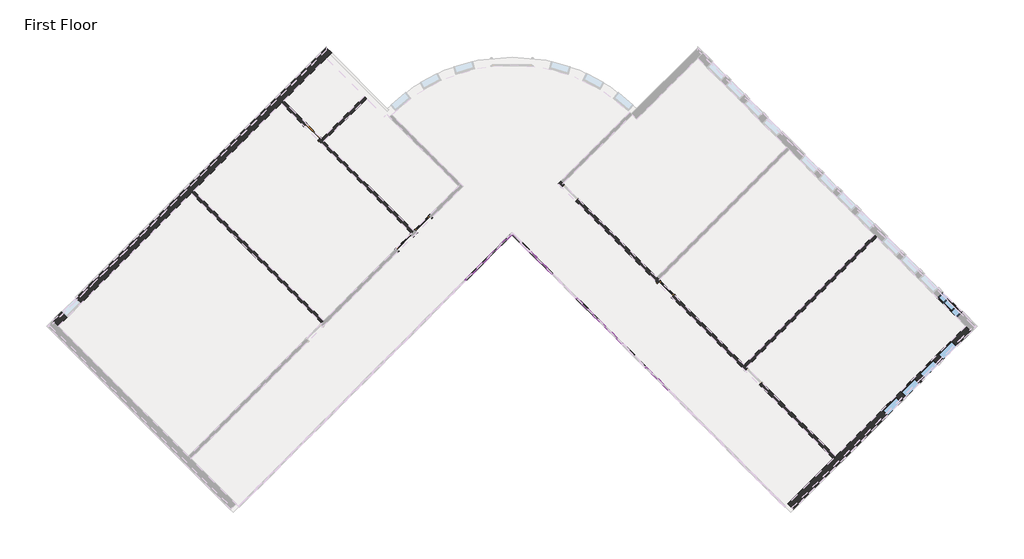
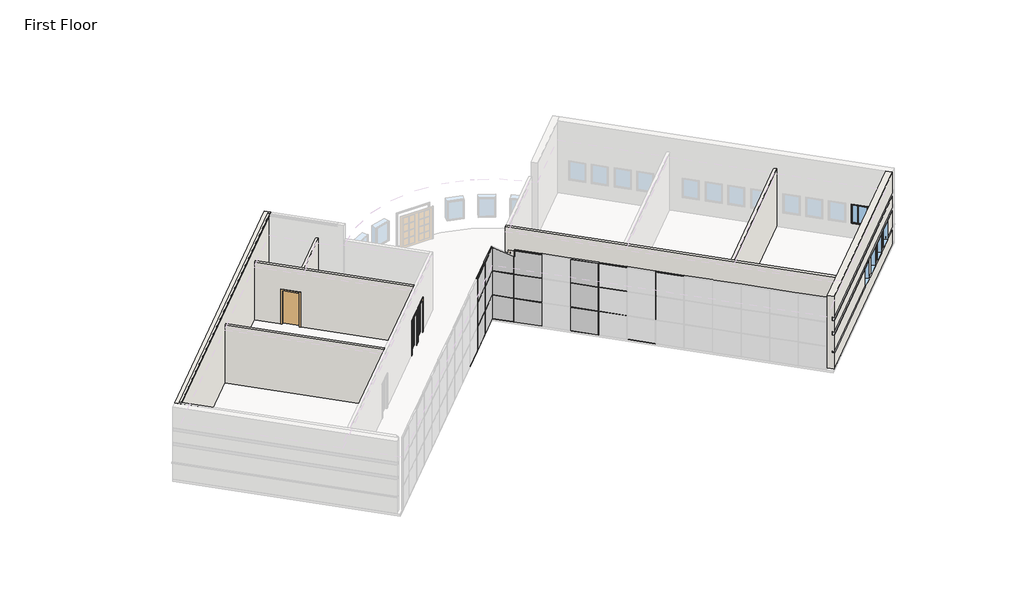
# One storey, part 3 of 5: 32 members, 15 plates, 7 walls, 6 windows, 4 doors.
"""IFC4 building model written with IfcOpenShell, lengths in millimetres."""

from ifc_helpers import new_model, si_unit, origin, origin_with_axes, place, context, project, spatial, polyline, outline, extrude, faceted_brep, transform, mapped, element, save
from components import door_f9494b7c, door_b81abb0e, door_5f5b55da, member_155beb68, member_f5090587, member_42be4715, member_6121af53, member_bd80eb51, member_b8a5b5c0, member_9574b3de, member_6675e4ca, member_0f81cabc, system_panel_solid_99f695d0, system_panel_solid_2f1037e2, system_panel_solid_51be2c86, system_panel_solid_5fd6f37f, system_panel_solid_6e0f4c8d, system_panel_solid_e1a07a15, system_panel_solid_f673cd79, system_panel_solid_3576f13f, window_15c49d37, window_0e2fc6ce

model = new_model("IFC4")

# Units and contexts
model_context = context("Model", 3, world=origin())
ifc_project = project(units=[si_unit("LENGTHUNIT", "METRE", prefix="MILLI")], contexts=[model_context])

# Site, building, storey
site = spatial("IfcSite", under=ifc_project)
building = spatial("IfcBuilding", under=site)
storey = spatial("IfcBuildingStorey", under=building, Name="First Floor", Elevation=0.0)

# Doors
placement = place(None, origin())
door_shape = door_f9494b7c(model_context)
element("IfcDoor", 1, ObjectType="Single-Flush : 36\" x 84\"", at=placement, inside=storey, context=model_context, shape_type="MappedRepresentation", body=[
    mapped(door_shape, transform((-12710.6349126, 7029.9464017, 0.0), x_axis=(0.7071067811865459, -0.7071067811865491, 0.0), y_axis=(0.7071067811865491, 0.7071067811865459, 0.0), z_axis=(0.0, 0.0, 1.0))),
])
door_2_shape = door_b81abb0e(model_context)
element("IfcDoor", 2, ObjectType="Single-Glass 1 : 36\" x 84\"", at=placement, inside=storey, context=model_context, shape_type="MappedRepresentation", body=[
    mapped(door_2_shape, transform((-8433.7879349, 1890.9948364, 0.0), x_axis=(0.707106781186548, 0.707106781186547, 0.0), y_axis=(-0.707106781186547, 0.707106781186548, 0.0), z_axis=(0.0, 0.0, 1.0))),
])
door_3_shape = door_5f5b55da(model_context)
element("IfcDoor", 3, ObjectType="Single-Glass 1 : 36\" x 84\"", at=placement, inside=storey, context=model_context, shape_type="MappedRepresentation", body=[
    mapped(door_3_shape, transform((-7571.6833473, 2753.0994241, 0.0), x_axis=(-0.707106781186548, -0.707106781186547, 0.0), y_axis=(0.707106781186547, -0.707106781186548, 0.0), z_axis=(0.0, 0.0, 1.0))),
])
element("IfcDoor", 4, ObjectType="Single-Glass 1 : 36\" x 84\"", at=placement, inside=storey, context=model_context, shape_type="MappedRepresentation", body=[
    mapped(door_3_shape, transform((3703.0282127, -264.2666326, 0.0), x_axis=(-0.7071067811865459, 0.7071067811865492, 0.0), y_axis=(-0.7071067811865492, -0.7071067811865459, 0.0), z_axis=(0.0, 0.0, 1.0))),
])

# Members
member_shape = member_155beb68(model_context)
element("IfcMember", 5, ObjectType="Rectangular Mullion : 1.5\" x 2.5\" Rectangular", at=placement, inside=storey, context=model_context, shape_type="MappedRepresentation", body=[
    mapped(member_shape, transform((-4520.6413301, 1244.4163957, 0.0), x_axis=(-0.7071067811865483, -0.7071067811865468, 0.0), y_axis=(-0.7071067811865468, 0.7071067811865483, 0.0), z_axis=(0.0, 0.0, -1.0))),
])
element("IfcMember", 6, ObjectType="Rectangular Mullion : 1.5\" x 2.5\" Rectangular", at=placement, inside=storey, context=model_context, shape_type="MappedRepresentation", body=[
    mapped(member_shape, transform((-5598.2720647, 166.7856612, 0.0), x_axis=(-0.7071067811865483, -0.7071067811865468, 0.0), y_axis=(-0.7071067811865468, 0.7071067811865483, 0.0), z_axis=(0.0, 0.0, -1.0))),
])
element("IfcMember", 7, ObjectType="Rectangular Mullion : 1.5\" x 2.5\" Rectangular", at=placement, inside=storey, context=model_context, shape_type="MappedRepresentation", body=[
    mapped(member_shape, transform((618.3102351, -1739.2737005, 0.0), x_axis=(-0.7071067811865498, 0.7071067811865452, 0.0), y_axis=(0.7071067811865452, 0.7071067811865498, 0.0), z_axis=(0.0, 0.0, -1.0))),
])
element("IfcMember", 8, ObjectType="Rectangular Mullion : 1.5\" x 2.5\" Rectangular", at=placement, inside=storey, context=model_context, shape_type="MappedRepresentation", body=[
    mapped(member_shape, transform((-2614.5819684, 1493.6185031, 0.0), x_axis=(-0.7071067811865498, 0.7071067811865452, 0.0), y_axis=(0.7071067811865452, 0.7071067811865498, 0.0), z_axis=(0.0, 0.0, -1.0))),
])
member_2_shape = member_f5090587(model_context)
element("IfcMember", 9, ObjectType="Rectangular Mullion : 1.5\" x 2.5\" Rectangular", at=placement, inside=storey, context=model_context, shape_type="MappedRepresentation", body=[
    mapped(member_2_shape, transform((-4507.170946, 1257.8867799, 1524.0), x_axis=(0.0, 0.0, 1.0), y_axis=(-0.7071067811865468, 0.7071067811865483, 0.0), z_axis=(-0.7071067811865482, -0.7071067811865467, 0.0))),
])
element("IfcMember", 10, ObjectType="Rectangular Mullion : 1.5\" x 2.5\" Rectangular", at=placement, inside=storey, context=model_context, shape_type="MappedRepresentation", body=[
    mapped(member_2_shape, transform((-4507.170946, 1257.8867799, 3048.0), x_axis=(0.0, 0.0, 1.0), y_axis=(-0.7071067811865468, 0.7071067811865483, 0.0), z_axis=(-0.7071067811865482, -0.7071067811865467, 0.0))),
])
member_3_shape = member_42be4715(model_context)
element("IfcMember", 11, ObjectType="Rectangular Mullion : 1.5\" x 2.5\" Rectangular", at=placement, inside=storey, context=model_context, shape_type="MappedRepresentation", body=[
    mapped(member_3_shape, transform((-5584.8016805, 180.2560454, 1524.0), x_axis=(0.0, 0.0, 1.0), y_axis=(-0.7071067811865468, 0.7071067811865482, 0.0), z_axis=(-0.7071067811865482, -0.7071067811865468, 0.0))),
])
element("IfcMember", 12, ObjectType="Rectangular Mullion : 1.5\" x 2.5\" Rectangular", at=placement, inside=storey, context=model_context, shape_type="MappedRepresentation", body=[
    mapped(member_3_shape, transform((-5584.8016805, 180.2560454, 3048.0), x_axis=(0.0, 0.0, 1.0), y_axis=(-0.7071067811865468, 0.7071067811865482, 0.0), z_axis=(-0.7071067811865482, -0.7071067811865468, 0.0))),
])
element("IfcMember", 13, ObjectType="Rectangular Mullion : 1.5\" x 2.5\" Rectangular", at=placement, inside=storey, context=model_context, shape_type="MappedRepresentation", body=[
    mapped(member_3_shape, transform((631.7806193, -1752.7440847, 1524.0), x_axis=(0.0, 0.0, 1.0), y_axis=(0.707106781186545, 0.70710678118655, 0.0), z_axis=(-0.7071067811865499, 0.7071067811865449, 0.0))),
])
element("IfcMember", 14, ObjectType="Rectangular Mullion : 1.5\" x 2.5\" Rectangular", at=placement, inside=storey, context=model_context, shape_type="MappedRepresentation", body=[
    mapped(member_3_shape, transform((-2601.1115843, 1480.1481189, 1524.0), x_axis=(0.0, 0.0, 1.0), y_axis=(0.7071067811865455, 0.7071067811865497, 0.0), z_axis=(-0.7071067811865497, 0.7071067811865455, 0.0))),
])
element("IfcMember", 15, ObjectType="Rectangular Mullion : 1.5\" x 2.5\" Rectangular", at=placement, inside=storey, context=model_context, shape_type="MappedRepresentation", body=[
    mapped(member_3_shape, transform((631.7806193, -1752.7440847, 3048.0), x_axis=(0.0, 0.0, 1.0), y_axis=(0.707106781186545, 0.70710678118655, 0.0), z_axis=(-0.7071067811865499, 0.7071067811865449, 0.0))),
])
element("IfcMember", 16, ObjectType="Rectangular Mullion : 1.5\" x 2.5\" Rectangular", at=placement, inside=storey, context=model_context, shape_type="MappedRepresentation", body=[
    mapped(member_3_shape, transform((-2601.1115843, 1480.1481189, 3048.0), x_axis=(0.0, 0.0, 1.0), y_axis=(0.7071067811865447, 0.7071067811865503, 0.0), z_axis=(-0.7071067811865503, 0.7071067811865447, 0.0))),
])
member_4_shape = member_6121af53(model_context)
element("IfcMember", 17, ObjectType="Rectangular Mullion : 1.5\" x 2.5\" Rectangular", at=placement, inside=storey, context=model_context, shape_type="MappedRepresentation", body=[
    mapped(member_4_shape, transform((-4534.1117143, 1230.9460115, 0.0), x_axis=(0.0, 0.0, -1.0), y_axis=(-0.7071067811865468, 0.7071067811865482, 0.0), z_axis=(0.7071067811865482, 0.7071067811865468, 0.0))),
])
element("IfcMember", 18, ObjectType="Rectangular Mullion : 1.5\" x 2.5\" Rectangular", at=placement, inside=storey, context=model_context, shape_type="MappedRepresentation", body=[
    mapped(member_4_shape, transform((-5611.7424488, 153.315277, 0.0), x_axis=(0.0, 0.0, -1.0), y_axis=(-0.7071067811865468, 0.7071067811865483, 0.0), z_axis=(0.7071067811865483, 0.7071067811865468, 0.0))),
])
element("IfcMember", 19, ObjectType="Rectangular Mullion : 1.5\" x 2.5\" Rectangular", at=placement, inside=storey, context=model_context, shape_type="MappedRepresentation", body=[
    mapped(member_4_shape, transform((2760.10132, -3881.0647854, 0.0), x_axis=(0.0, 0.0, -1.0), y_axis=(0.7071067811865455, 0.7071067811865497, 0.0), z_axis=(0.7071067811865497, -0.7071067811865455, 0.0))),
])
element("IfcMember", 20, ObjectType="Rectangular Mullion : 1.5\" x 2.5\" Rectangular", at=placement, inside=storey, context=model_context, shape_type="MappedRepresentation", body=[
    mapped(member_4_shape, transform((604.839851, -1725.8033163, 0.0), x_axis=(0.0, 0.0, -1.0), y_axis=(0.707106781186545, 0.70710678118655, 0.0), z_axis=(0.70710678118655, -0.707106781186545, 0.0))),
])
member_5_shape = member_bd80eb51(model_context)
element("IfcMember", 21, ObjectType="Rectangular Mullion : 1.5\" x 2.5\" Rectangular", at=placement, inside=storey, context=model_context, shape_type="MappedRepresentation", body=[
    mapped(member_5_shape, transform((-2628.0523526, 1507.0888873, 0.0), x_axis=(0.0, 0.0, -1.0), y_axis=(0.7071067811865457, 0.7071067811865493, 0.0), z_axis=(0.7071067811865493, -0.7071067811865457, 0.0))),
])
member_6_shape = member_b8a5b5c0(model_context)
element("IfcMember", 22, ObjectType="Rectangular Mullion : 1.5\" x 2.5\" Rectangular", at=placement, inside=storey, context=model_context, shape_type="MappedRepresentation", body=[
    mapped(member_6_shape, transform((-4507.170946, 1257.8867799, 4572.0), x_axis=(0.0, 0.0, 1.0), y_axis=(-0.7071067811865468, 0.7071067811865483, 0.0), z_axis=(-0.7071067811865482, -0.7071067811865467, 0.0))),
])
element("IfcMember", 23, ObjectType="Rectangular Mullion : 1.5\" x 2.5\" Rectangular", at=placement, inside=storey, context=model_context, shape_type="MappedRepresentation", body=[
    mapped(member_4_shape, transform((-5584.8016805, 180.2560454, 4572.0), x_axis=(0.0, 0.0, 1.0), y_axis=(-0.7071067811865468, 0.7071067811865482, 0.0), z_axis=(-0.7071067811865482, -0.7071067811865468, 0.0))),
])
element("IfcMember", 24, ObjectType="Rectangular Mullion : 1.5\" x 2.5\" Rectangular", at=placement, inside=storey, context=model_context, shape_type="MappedRepresentation", body=[
    mapped(member_4_shape, transform((2787.0420884, -3908.0055537, 4572.0), x_axis=(0.0, 0.0, 1.0), y_axis=(0.707106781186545, 0.70710678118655, 0.0), z_axis=(-0.7071067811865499, 0.7071067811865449, 0.0))),
])
element("IfcMember", 25, ObjectType="Rectangular Mullion : 1.5\" x 2.5\" Rectangular", at=placement, inside=storey, context=model_context, shape_type="MappedRepresentation", body=[
    mapped(member_4_shape, transform((631.7806193, -1752.7440847, 4572.0), x_axis=(0.0, 0.0, 1.0), y_axis=(0.707106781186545, 0.70710678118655, 0.0), z_axis=(-0.7071067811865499, 0.7071067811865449, 0.0))),
])
element("IfcMember", 26, ObjectType="Rectangular Mullion : 1.5\" x 2.5\" Rectangular", at=placement, inside=storey, context=model_context, shape_type="MappedRepresentation", body=[
    mapped(member_shape, transform((-4520.6413301, 1244.4163957, 1524.0), x_axis=(-0.7071067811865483, -0.7071067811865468, 0.0), y_axis=(-0.7071067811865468, 0.7071067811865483, 0.0), z_axis=(0.0, 0.0, -1.0))),
])
element("IfcMember", 27, ObjectType="Rectangular Mullion : 1.5\" x 2.5\" Rectangular", at=placement, inside=storey, context=model_context, shape_type="MappedRepresentation", body=[
    mapped(member_shape, transform((-5598.2720647, 166.7856612, 1524.0), x_axis=(-0.7071067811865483, -0.7071067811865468, 0.0), y_axis=(-0.7071067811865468, 0.7071067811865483, 0.0), z_axis=(0.0, 0.0, -1.0))),
])
element("IfcMember", 28, ObjectType="Rectangular Mullion : 1.5\" x 2.5\" Rectangular", at=placement, inside=storey, context=model_context, shape_type="MappedRepresentation", body=[
    mapped(member_shape, transform((2773.5717042, -3894.5351696, 1524.0), x_axis=(-0.7071067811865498, 0.7071067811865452, 0.0), y_axis=(0.7071067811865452, 0.7071067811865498, 0.0), z_axis=(0.0, 0.0, -1.0))),
])
element("IfcMember", 29, ObjectType="Rectangular Mullion : 1.5\" x 2.5\" Rectangular", at=placement, inside=storey, context=model_context, shape_type="MappedRepresentation", body=[
    mapped(member_shape, transform((618.3102351, -1739.2737005, 1524.0), x_axis=(-0.7071067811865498, 0.7071067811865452, 0.0), y_axis=(0.7071067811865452, 0.7071067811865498, 0.0), z_axis=(0.0, 0.0, -1.0))),
])
element("IfcMember", 30, ObjectType="Rectangular Mullion : 1.5\" x 2.5\" Rectangular", at=placement, inside=storey, context=model_context, shape_type="MappedRepresentation", body=[
    mapped(member_shape, transform((-4520.6413301, 1244.4163957, 3048.0), x_axis=(-0.7071067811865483, -0.7071067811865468, 0.0), y_axis=(-0.7071067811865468, 0.7071067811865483, 0.0), z_axis=(0.0, 0.0, -1.0))),
])
element("IfcMember", 31, ObjectType="Rectangular Mullion : 1.5\" x 2.5\" Rectangular", at=placement, inside=storey, context=model_context, shape_type="MappedRepresentation", body=[
    mapped(member_shape, transform((-5598.2720647, 166.7856612, 3048.0), x_axis=(-0.7071067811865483, -0.7071067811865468, 0.0), y_axis=(-0.7071067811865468, 0.7071067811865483, 0.0), z_axis=(0.0, 0.0, -1.0))),
])
element("IfcMember", 32, ObjectType="Rectangular Mullion : 1.5\" x 2.5\" Rectangular", at=placement, inside=storey, context=model_context, shape_type="MappedRepresentation", body=[
    mapped(member_shape, transform((2773.5717042, -3894.5351696, 3048.0), x_axis=(-0.7071067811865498, 0.7071067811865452, 0.0), y_axis=(0.7071067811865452, 0.7071067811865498, 0.0), z_axis=(0.0, 0.0, -1.0))),
])
element("IfcMember", 33, ObjectType="Rectangular Mullion : 1.5\" x 2.5\" Rectangular", at=placement, inside=storey, context=model_context, shape_type="MappedRepresentation", body=[
    mapped(member_shape, transform((618.3102351, -1739.2737005, 3048.0), x_axis=(-0.7071067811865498, 0.7071067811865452, 0.0), y_axis=(0.7071067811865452, 0.7071067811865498, 0.0), z_axis=(0.0, 0.0, -1.0))),
])
member_7_shape = member_9574b3de(model_context)
element("IfcMember", 34, ObjectType="Rectangular Mullion : 1.5\" x 2.5\" Rectangular", at=placement, inside=storey, context=model_context, shape_type="MappedRepresentation", body=[
    mapped(member_7_shape, transform((-2553.9652396, 1433.0017743, 4572.0), x_axis=(0.0, 0.0, 1.0), y_axis=(0.7071067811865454, 0.7071067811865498, 0.0), z_axis=(-0.7071067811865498, 0.7071067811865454, 0.0))),
])
member_8_shape = member_6675e4ca(model_context)
element("IfcMember", 35, ObjectType="Rectangular Mullion : 1.5\" x 2.5\" Rectangular", at=placement, inside=storey, context=model_context, shape_type="MappedRepresentation", body=[
    mapped(member_8_shape, transform((-2580.906008, 1459.9425426, 4165.6), x_axis=(-0.7071067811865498, 0.7071067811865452, 0.0), y_axis=(0.7071067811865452, 0.7071067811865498, 0.0), z_axis=(0.0, 0.0, -1.0))),
])
member_9_shape = member_0f81cabc(model_context)
element("IfcMember", 36, ObjectType="Rectangular Mullion : 1.5\" x 2.5\" Rectangular", at=placement, inside=storey, context=model_context, shape_type="MappedRepresentation", body=[
    mapped(member_9_shape, transform((-2614.5819684, 1493.6185031, 4181.475), x_axis=(0.22360679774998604, -0.22360679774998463, 0.9486832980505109), y_axis=(0.7071067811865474, 0.7071067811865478, 0.0), z_axis=(-0.6708203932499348, 0.6708203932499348, 0.31622776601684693))),
])

# Plates
system_panel_solid_shape = system_panel_solid_99f695d0(model_context)
element("IfcPlate", 37, ObjectType="System Panel : Solid", at=placement, inside=storey, context=model_context, shape_type="MappedRepresentation", body=[
    mapped(system_panel_solid_shape, transform((-3988.561155, 1776.4965709, 38.1), x_axis=(-0.7071067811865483, -0.7071067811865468, 0.0), y_axis=(0.7071067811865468, -0.7071067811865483, 0.0), z_axis=(0.0, 0.0, 1.0))),
])
element("IfcPlate", 38, ObjectType="System Panel : Solid", at=placement, inside=storey, context=model_context, shape_type="MappedRepresentation", body=[
    mapped(system_panel_solid_shape, transform((-3988.561155, 1776.4965709, 3067.05), x_axis=(-0.7071067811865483, -0.7071067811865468, 0.0), y_axis=(0.7071067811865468, -0.7071067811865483, 0.0), z_axis=(0.0, 0.0, 1.0))),
])
system_panel_solid_2_shape = system_panel_solid_2f1037e2(model_context)
element("IfcPlate", 39, ObjectType="System Panel : Solid", at=placement, inside=storey, context=model_context, shape_type="MappedRepresentation", body=[
    mapped(system_panel_solid_2_shape, transform((79.4948679, -1200.4583332, 38.1), x_axis=(-0.7071067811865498, 0.7071067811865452, 0.0), y_axis=(-0.7071067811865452, -0.7071067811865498, 0.0), z_axis=(0.0, 0.0, 1.0))),
])
element("IfcPlate", 40, ObjectType="System Panel : Solid", at=placement, inside=storey, context=model_context, shape_type="MappedRepresentation", body=[
    mapped(system_panel_solid_2_shape, transform((-5059.4566974, 705.6010285, 38.1), x_axis=(-0.7071067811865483, -0.7071067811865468, 0.0), y_axis=(0.7071067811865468, -0.7071067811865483, 0.0), z_axis=(0.0, 0.0, 1.0))),
])
element("IfcPlate", 41, ObjectType="System Panel : Solid", at=placement, inside=storey, context=model_context, shape_type="MappedRepresentation", body=[
    mapped(system_panel_solid_2_shape, transform((-2075.7666012, 954.8031358, 38.1), x_axis=(-0.7071067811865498, 0.7071067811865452, 0.0), y_axis=(-0.7071067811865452, -0.7071067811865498, 0.0), z_axis=(0.0, 0.0, 1.0))),
])
element("IfcPlate", 42, ObjectType="System Panel : Solid", at=placement, inside=storey, context=model_context, shape_type="MappedRepresentation", body=[
    mapped(system_panel_solid_2_shape, transform((79.4948679, -1200.4583332, 3067.05), x_axis=(-0.7071067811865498, 0.7071067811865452, 0.0), y_axis=(-0.7071067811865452, -0.7071067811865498, 0.0), z_axis=(0.0, 0.0, 1.0))),
])
element("IfcPlate", 43, ObjectType="System Panel : Solid", at=placement, inside=storey, context=model_context, shape_type="MappedRepresentation", body=[
    mapped(system_panel_solid_2_shape, transform((-5059.4566974, 705.6010285, 3067.05), x_axis=(-0.7071067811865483, -0.7071067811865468, 0.0), y_axis=(0.7071067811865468, -0.7071067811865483, 0.0), z_axis=(0.0, 0.0, 1.0))),
])
system_panel_solid_3_shape = system_panel_solid_51be2c86(model_context)
element("IfcPlate", 44, ObjectType="System Panel : Solid", at=placement, inside=storey, context=model_context, shape_type="MappedRepresentation", body=[
    mapped(system_panel_solid_3_shape, transform((-3988.561155, 1776.4965709, 1543.05), x_axis=(-0.7071067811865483, -0.7071067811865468, 0.0), y_axis=(0.7071067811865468, -0.7071067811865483, 0.0), z_axis=(0.0, 0.0, 1.0))),
])
system_panel_solid_4_shape = system_panel_solid_5fd6f37f(model_context)
element("IfcPlate", 45, ObjectType="System Panel : Solid", at=placement, inside=storey, context=model_context, shape_type="MappedRepresentation", body=[
    mapped(system_panel_solid_4_shape, transform((79.4948679, -1200.4583332, 1543.05), x_axis=(-0.7071067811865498, 0.7071067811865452, 0.0), y_axis=(-0.7071067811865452, -0.7071067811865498, 0.0), z_axis=(0.0, 0.0, 1.0))),
])
element("IfcPlate", 46, ObjectType="System Panel : Solid", at=placement, inside=storey, context=model_context, shape_type="MappedRepresentation", body=[
    mapped(system_panel_solid_4_shape, transform((-5059.4566974, 705.6010285, 1543.05), x_axis=(-0.7071067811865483, -0.7071067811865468, 0.0), y_axis=(0.7071067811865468, -0.7071067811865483, 0.0), z_axis=(0.0, 0.0, 1.0))),
])
element("IfcPlate", 47, ObjectType="System Panel : Solid", at=placement, inside=storey, context=model_context, shape_type="MappedRepresentation", body=[
    mapped(system_panel_solid_4_shape, transform((-2075.7666012, 954.8031358, 1543.05), x_axis=(-0.7071067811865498, 0.7071067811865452, 0.0), y_axis=(-0.7071067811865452, -0.7071067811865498, 0.0), z_axis=(0.0, 0.0, 1.0))),
])
system_panel_solid_5_shape = system_panel_solid_6e0f4c8d(model_context)
element("IfcPlate", 48, ObjectType="System Panel : Solid", at=placement, inside=storey, context=model_context, shape_type="MappedRepresentation", body=[
    mapped(system_panel_solid_5_shape, transform((-3022.0610899, 1901.0976246, 38.1), x_axis=(-0.7071067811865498, 0.7071067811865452, 0.0), y_axis=(-0.7071067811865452, -0.7071067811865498, 0.0), z_axis=(0.0, 0.0, 1.0))),
])
system_panel_solid_6_shape = system_panel_solid_e1a07a15(model_context)
element("IfcPlate", 49, ObjectType="System Panel : Solid", at=placement, inside=storey, context=model_context, shape_type="MappedRepresentation", body=[
    mapped(system_panel_solid_6_shape, transform((-3022.0610899, 1901.0976246, 1543.05), x_axis=(-0.7071067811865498, 0.7071067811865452, 0.0), y_axis=(-0.7071067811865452, -0.7071067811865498, 0.0), z_axis=(0.0, 0.0, 1.0))),
])
system_panel_solid_7_shape = system_panel_solid_f673cd79(model_context)
element("IfcPlate", 50, ObjectType="System Panel : Solid", at=placement, inside=storey, context=model_context, shape_type="MappedRepresentation", body=[
    mapped(system_panel_solid_7_shape, transform((-2075.7666012, 954.8031358, 3067.05), x_axis=(-0.7071067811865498, 0.7071067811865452, 0.0), y_axis=(-0.7071067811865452, -0.7071067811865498, 0.0), z_axis=(0.0, 0.0, 1.0))),
])
system_panel_solid_8_shape = system_panel_solid_3576f13f(model_context)
element("IfcPlate", 51, ObjectType="System Panel : Solid", at=placement, inside=storey, context=model_context, shape_type="MappedRepresentation", body=[
    mapped(system_panel_solid_8_shape, transform((-3022.0610899, 1901.0976246, 3067.05), x_axis=(-0.7071067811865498, 0.7071067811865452, 0.0), y_axis=(-0.7071067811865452, -0.7071067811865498, 0.0), z_axis=(0.0, 0.0, 1.0))),
])

# Walls
element("IfcWall", 52, ObjectType="Exterior - Split Face and CMU on Mtl. Stud", at=placement, inside=storey, context=model_context, shape_type="Brep", body=[
    faceted_brep([(17611.1998802, -1988.4758079, 0.0), (11574.2227029, -8025.4529853, 0.0), (11464.2145654, -8135.4611227, 0.0), (9363.9571651, -10235.718523, 0.0), (9363.9571651, -10235.718523, 4572.0), (17611.1998802, -1988.4758079, 4572.0), (16301.2050186, -3298.4706695, 2133.6), (16301.2050186, -3298.4706695, 914.4), (16947.7834593, -2651.8922288, 914.4), (16947.7834593, -2651.8922288, 2133.6), (15439.100431, -4160.5752571, 2133.6), (15439.100431, -4160.5752571, 914.4), (16085.6788717, -3513.9968164, 914.4), (16085.6788717, -3513.9968164, 2133.6), (14576.9958433, -5022.6798448, 2133.6), (14576.9958433, -5022.6798448, 914.4), (15223.574284, -4376.1014041, 914.4), (15223.574284, -4376.1014041, 2133.6), (13714.8912557, -5884.7844324, 2133.6), (13714.8912557, -5884.7844324, 914.4), (14361.4696964, -5238.2059917, 914.4), (14361.4696964, -5238.2059917, 2133.6), (17860.4019876, -2237.6779152, 4572.0), (9613.1592724, -10484.9206304, 4572.0), (9613.1592724, -10484.9206304, 3251.2), (17860.4019876, -2237.6779152, 3251.2), (9613.1592724, -10484.9206304, 0.0), (17860.4019876, -2237.6779152, 0.0), (17860.4019876, -2237.6779152, 1016.0), (17196.9855667, -2901.0943362, 1016.0), (17196.9855667, -2901.0943362, 914.4), (16550.4071259, -3547.6727769, 914.4), (16550.4071259, -3547.6727769, 1016.0), (16334.880979, -3763.1989238, 1016.0), (16334.880979, -3763.1989238, 914.4), (15688.3025383, -4409.7773645, 914.4), (15688.3025383, -4409.7773645, 1016.0), (15472.7763914, -4625.3035114, 1016.0), (15472.7763914, -4625.3035114, 914.4), (14826.1979507, -5271.8819521, 914.4), (14826.1979507, -5271.8819521, 1016.0), (14610.6718038, -5487.408099, 1016.0), (14610.6718038, -5487.408099, 914.4), (13964.0933631, -6133.9865398, 914.4), (13964.0933631, -6133.9865398, 1016.0), (9613.1592724, -10484.9206304, 1016.0), (9613.1592724, -10484.9206304, 1085.85), (13964.0933631, -6133.9865398, 1085.85), (13964.0933631, -6133.9865398, 2133.6), (9613.1592724, -10484.9206304, 2133.6), (17196.9855667, -2901.0943362, 1085.85), (17860.4019876, -2237.6779152, 1085.85), (17860.4019876, -2237.6779152, 2133.6), (17196.9855667, -2901.0943362, 2133.6), (9613.1592724, -10484.9206304, 2336.8), (17860.4019876, -2237.6779152, 2336.8), (17860.4019876, -2237.6779152, 3048.0), (9613.1592724, -10484.9206304, 3048.0), (16550.4071259, -3547.6727769, 1085.85), (16550.4071259, -3547.6727769, 2133.6), (16334.880979, -3763.1989238, 2133.6), (16334.880979, -3763.1989238, 1085.85), (15688.3025383, -4409.7773645, 1085.85), (15688.3025383, -4409.7773645, 2133.6), (15472.7763914, -4625.3035114, 2133.6), (15472.7763914, -4625.3035114, 1085.85), (14826.1979507, -5271.8819521, 1085.85), (14826.1979507, -5271.8819521, 2133.6), (14610.6718038, -5487.408099, 2133.6), (14610.6718038, -5487.408099, 1085.85), (9548.0524155, -10419.8137735, 0.0), (9548.0524155, -10419.8137735, 1016.0), (9548.0524155, -10419.8137735, 1085.85), (9548.0524155, -10419.8137735, 2133.6), (9548.0524155, -10419.8137735, 2336.8), (9548.0524155, -10419.8137735, 3048.0), (9548.0524155, -10419.8137735, 3251.2), (17795.2951307, -2172.5710583, 0.0), (13898.9865062, -6068.8796829, 1085.85), (13898.9865062, -6068.8796829, 1016.0), (13898.9865062, -6068.8796829, 2133.6), (14545.5649469, -5422.3012422, 2133.6), (14761.0910938, -5206.7750953, 2133.6), (15407.6695345, -4560.1966545, 2133.6), (15623.1956814, -4344.6705076, 2133.6), (16269.7741222, -3698.0920669, 2133.6), (16485.3002691, -3482.56592, 2133.6), (17131.8787098, -2835.9874793, 2133.6), (17795.2951307, -2172.5710583, 2133.6), (17795.2951307, -2172.5710583, 2336.8), (17795.2951307, -2172.5710583, 3048.0), (17795.2951307, -2172.5710583, 3251.2), (17795.2951307, -2172.5710583, 1085.85), (17795.2951307, -2172.5710583, 1016.0), (17131.8787098, -2835.9874793, 1085.85), (17131.8787098, -2835.9874793, 1016.0), (16485.3002691, -3482.56592, 1085.85), (16485.3002691, -3482.56592, 1016.0), (15623.1956814, -4344.6705076, 1085.85), (15623.1956814, -4344.6705076, 1016.0), (16269.7741222, -3698.0920669, 1016.0), (16269.7741222, -3698.0920669, 1085.85), (14761.0910938, -5206.7750953, 1085.85), (14761.0910938, -5206.7750953, 1016.0), (15407.6695345, -4560.1966545, 1016.0), (15407.6695345, -4560.1966545, 1085.85), (14545.5649469, -5422.3012422, 1016.0), (14545.5649469, -5422.3012422, 1085.85)], [[[0, 1, 2, 3, 4, 5], [6, 7, 8, 9], [10, 11, 12, 13], [14, 15, 16, 17], [18, 19, 20, 21]], [[22, 23, 24, 25]], [[26, 27, 28, 29, 30, 31, 32, 33, 34, 35, 36, 37, 38, 39, 40, 41, 42, 43, 44, 45]], [[46, 47, 48, 49]], [[50, 51, 52, 53]], [[54, 55, 56, 57]], [[58, 59, 60, 61]], [[62, 63, 64, 65]], [[66, 67, 68, 69]], [[4, 3, 70, 26, 45, 71, 72, 46, 49, 73, 74, 54, 57, 75, 76, 24, 23]], [[5, 4, 23, 22]], [[3, 2, 1, 0, 77, 70]], [[72, 78, 47, 46]], [[79, 71, 45, 44]], [[78, 72, 71, 79]], [[74, 73, 80, 81, 82, 83, 84, 85, 86, 87, 88, 89]], [[75, 90, 91, 76]], [[0, 5, 22, 25, 91, 90, 56, 55, 89, 88, 52, 51, 92, 93, 28, 27, 77]], [[27, 26, 70, 77]], [[51, 50, 94, 92]], [[29, 28, 93, 95]], [[52, 88, 87, 53]], [[49, 48, 80, 73]], [[86, 85, 60, 59]], [[84, 83, 64, 63]], [[82, 81, 68, 67]], [[74, 89, 55, 54]], [[90, 75, 57, 56]], [[76, 91, 25, 24]], [[7, 6, 86, 59, 58, 96, 97, 32, 31]], [[8, 7, 31, 30]], [[9, 8, 30, 29, 95, 94, 50, 53, 87]], [[6, 9, 87, 86]], [[11, 10, 84, 63, 62, 98, 99, 36, 35]], [[12, 11, 35, 34]], [[13, 12, 34, 33, 100, 101, 61, 60, 85]], [[10, 13, 85, 84]], [[15, 14, 82, 67, 66, 102, 103, 40, 39]], [[16, 15, 39, 38]], [[17, 16, 38, 37, 104, 105, 65, 64, 83]], [[14, 17, 83, 82]], [[19, 18, 80, 48, 47, 78, 79, 44, 43]], [[20, 19, 43, 42]], [[21, 20, 42, 41, 106, 107, 69, 68, 81]], [[18, 21, 81, 80]], [[92, 94, 95, 93]], [[101, 96, 58, 61]], [[97, 100, 33, 32]], [[96, 101, 100, 97]], [[105, 98, 62, 65]], [[99, 104, 37, 36]], [[98, 105, 104, 99]], [[107, 102, 66, 69]], [[103, 106, 41, 40]], [[102, 107, 106, 103]]]),
])
element("IfcWall", 53, ObjectType="Exterior - Split Face and CMU on Mtl. Stud", at=placement, inside=storey, context=model_context, shape_type="Brep", body=[
    faceted_brep([(-11814.8543645, 10693.8908991, 0.0), (-11814.8543645, 10693.8908991, 1016.0), (-11879.9612214, 10628.7840422, 1016.0), (-11879.9612214, 10628.7840422, 1085.85), (-11814.8543645, 10693.8908991, 1085.85), (-11814.8543645, 10693.8908991, 2133.6), (-11879.9612214, 10628.7840422, 2133.6), (-11879.9612214, 10628.7840422, 2336.8), (-11814.8543645, 10693.8908991, 2336.8), (-11814.8543645, 10693.8908991, 3048.0), (-11879.9612214, 10628.7840422, 3048.0), (-11879.9612214, 10628.7840422, 3251.2), (-11814.8543645, 10693.8908991, 3251.2), (-11814.8543645, 10693.8908991, 4572.0), (-12064.0564718, 10444.6887918, 4572.0), (-24497.2210715, -1988.4758079, 4572.0), (-24497.2210715, -1988.4758079, 0.0), (-18318.8048602, 4189.9404034, 0.0), (-18208.7967227, 4299.9485409, 0.0), (-14149.720956, 8359.0243076, 0.0), (-14039.7128185, 8469.0324451, 0.0), (-12064.0564718, 10444.6887918, 0.0), (-24083.0067579, -1574.2614943, 914.4), (-24083.0067579, -1574.2614943, 2133.6), (-23436.4283172, -927.6830536, 2133.6), (-23436.4283172, -927.6830536, 914.4), (-12064.0564718, 10943.0930065, 1085.85), (-23685.6304245, -678.4809462, 1085.85), (-23685.6304245, -678.4809462, 2133.6), (-12064.0564718, 10943.0930065, 2133.6), (-23685.6304245, -678.4809462, 1016.0), (-12064.0564718, 10943.0930065, 1016.0), (-12064.0564718, 10943.0930065, 0.0), (-24746.4231788, -1739.2737005, 0.0), (-24746.4231788, -1739.2737005, 1016.0), (-24332.2088652, -1325.0593869, 1016.0), (-24332.2088652, -1325.0593869, 914.4), (-23685.6304245, -678.4809462, 914.4), (-24332.2088652, -1325.0593869, 1085.85), (-24746.4231788, -1739.2737005, 1085.85), (-24746.4231788, -1739.2737005, 2133.6), (-24332.2088652, -1325.0593869, 2133.6), (-24746.4231788, -1739.2737005, 3251.2), (-24746.4231788, -1739.2737005, 4572.0), (-12064.0564718, 10943.0930065, 4572.0), (-12064.0564718, 10943.0930065, 3251.2), (-12064.0564718, 10943.0930065, 2336.8), (-24746.4231788, -1739.2737005, 2336.8), (-24746.4231788, -1739.2737005, 3048.0), (-12064.0564718, 10943.0930065, 3048.0), (-12064.0564718, 10812.8792927, 1085.85), (-23620.5235676, -743.5878031, 1085.85), (-23620.5235676, -743.5878031, 1016.0), (-12064.0564718, 10812.8792927, 1016.0), (-24681.3163219, -1804.3805574, 2336.8), (-12064.0564718, 10812.8792927, 2336.8), (-12064.0564718, 10812.8792927, 2133.6), (-23620.5235676, -743.5878031, 2133.6), (-24267.1020084, -1390.1662438, 2133.6), (-24681.3163219, -1804.3805574, 2133.6), (-12064.0564718, 10812.8792927, 3048.0), (-24681.3163219, -1804.3805574, 3048.0), (-24681.3163219, -1804.3805574, 3251.2), (-12064.0564718, 10812.8792927, 3251.2), (-24681.3163219, -1804.3805574, 1085.85), (-24681.3163219, -1804.3805574, 1016.0), (-24267.1020084, -1390.1662438, 1085.85), (-24267.1020084, -1390.1662438, 1016.0)], [[[0, 1, 2, 3, 4, 5, 6, 7, 8, 9, 10, 11, 12, 13, 14, 15, 16, 17, 18, 19, 20, 21], [22, 23, 24, 25]], [[26, 27, 28, 29]], [[30, 31, 32, 33, 34, 35, 36, 37]], [[38, 39, 40, 41]], [[42, 43, 44, 45]], [[46, 47, 48, 49]], [[50, 51, 27, 26, 4, 3]], [[52, 53, 2, 1, 31, 30]], [[51, 50, 53, 52]], [[54, 55, 56, 57, 58, 59]], [[60, 61, 62, 63]], [[34, 33, 16, 15, 43, 42, 62, 61, 48, 47, 54, 59, 40, 39, 64, 65]], [[39, 38, 66, 64]], [[35, 34, 65, 67]], [[40, 59, 58, 41]], [[29, 28, 57, 56, 6, 5]], [[55, 54, 47, 46, 8, 7]], [[61, 60, 10, 9, 49, 48]], [[63, 62, 42, 45, 12, 11]], [[15, 14, 13, 44, 43]], [[8, 46, 49, 9]], [[13, 12, 45, 44]], [[1, 0, 32, 31]], [[5, 4, 26, 29]], [[56, 55, 7, 6]], [[60, 63, 11, 10]], [[23, 22, 36, 35, 67, 66, 38, 41, 58]], [[37, 36, 22, 25]], [[25, 24, 57, 28, 27, 51, 52, 30, 37]], [[24, 23, 58, 57]], [[64, 66, 67, 65]], [[53, 50, 3, 2]], [[0, 21, 20, 19, 18, 17, 16, 33, 32]]]),
    faceted_brep([(-12064.0564718, 10444.6887918, 4689.475), (-24497.2210715, -1988.4758079, 4689.475), (-24497.2210715, -1988.4758079, 4639.3965909), (-12064.0564718, 10444.6887918, 4639.3965909), (-11988.6657733, 10520.0794903, 4653.9354839), (-24572.61177, -1913.0851093, 4653.9354839), (-12064.0564718, 10595.4701889, 4653.9354839)], [[[0, 1, 2, 3, 4]], [[2, 1, 5]], [[1, 0, 6, 5]], [[0, 4, 6]], [[6, 3, 2, 5]], [[3, 6, 4]]]),
])
element("IfcWall", 54, ObjectType="Interior - 6 1/8\" Partition (2-hr)", at=placement, inside=storey, context=model_context, shape_type="Brep", body=[
    faceted_brep([(-8002.7356411, 2432.0552677, 0.0), (-12169.5744813, 6598.8941079, 0.0), (-12279.5826187, 6708.9022454, 0.0), (-12332.3416235, 6761.6612501, 0.0), (-12332.3416235, 6761.6612501, 2133.6), (-12978.9200642, 7408.2396908, 2133.6), (-12978.9200642, 7408.2396908, 0.0), (-14039.7128185, 8469.0324451, 0.0), (-14039.7128185, 8469.0324451, 3657.6), (-12279.5826187, 6708.9022454, 3657.6), (-12169.5744813, 6598.8941079, 3657.6), (-8002.7356411, 2432.0552677, 3657.6), (-12442.3497609, 6651.6531126, 2133.6), (-12442.3497609, 6651.6531126, 0.0), (-8112.7437786, 2322.0471303, 0.0), (-8112.7437786, 2322.0471303, 3657.6), (-14149.720956, 8359.0243076, 3657.6), (-14149.720956, 8359.0243076, 0.0), (-13088.9282017, 7298.2315533, 0.0), (-13088.9282017, 7298.2315533, 2133.6)], [[[0, 1, 2, 3, 4, 5, 6, 7, 8, 9, 10, 11]], [[12, 13, 14, 15, 16, 17, 18, 19]], [[18, 17, 7, 6]], [[14, 13, 3, 2, 1, 0]], [[11, 10, 9, 8, 16, 15]], [[8, 7, 17, 16]], [[0, 11, 15, 14]], [[4, 3, 13, 12]], [[5, 4, 12, 19]], [[6, 5, 19, 18]]]),
])
element("IfcWall", 55, ObjectType="Interior - 6 1/8\" Partition (2-hr)", at=placement, inside=storey, context=model_context, shape_type="SweptSolid", body=[
    extrude(outline(polyline([(-10193.9181346, 8574.5504545), (-12169.5744813, 6598.8941079), (-12279.5826187, 6708.9022454), (-10303.9262721, 8684.558592), (-10193.9181346, 8574.5504545)])), origin_with_axes(), (0.0, 0.0, 1.0), 3657.6),
])
element("IfcWall", 56, ObjectType="Interior - 6 1/8\" Partition (2-hr)", at=placement, inside=storey, context=model_context, shape_type="SweptSolid", body=[
    extrude(outline(polyline([(-18208.7967227, 4299.9485409), (-12171.8195453, -1737.0286365), (-12281.8276828, -1847.036774), (-18318.8048602, 4189.9404034), (-18208.7967227, 4299.9485409)])), origin_with_axes(), (0.0, 0.0, 1.0), 3657.6),
])
element("IfcWall", 57, ObjectType="Interior - 6 1/8\" Partition (2-hr)", at=placement, inside=storey, context=model_context, shape_type="Brep", body=[
    faceted_brep([(7496.0638919, -3947.2941743, 2133.6), (7496.0638919, -3947.2941743, 0.0), (7443.3048872, -3894.5351696, 0.0), (7333.2967497, -3784.5270321, 0.0), (4081.3215018, -532.5517842, 0.0), (4081.3215018, -532.5517842, 2133.6), (3434.7430611, 114.0266565, 2133.6), (3434.7430611, 114.0266565, 0.0), (3381.9840564, 166.7856612, 0.0), (3271.9759189, 276.7937987, 0.0), (-378.4981943, 3927.2679119, 0.0), (-378.4981943, 3927.2679119, 2133.6), (-1025.076635, 4573.8463526, 2133.6), (-1025.076635, 4573.8463526, 0.0), (-1077.8356397, 4626.6053573, 0.0), (-1187.8437772, 4736.6134948, 0.0), (-1187.8437772, 4736.6134948, 3657.6), (-1077.8356397, 4626.6053573, 3657.6), (3271.9759189, 276.7937987, 3657.6), (3381.9840564, 166.7856612, 3657.6), (7333.2967497, -3784.5270321, 3657.6), (7443.3048872, -3894.5351696, 3657.6), (11574.2227029, -8025.4529853, 3657.6), (11574.2227029, -8025.4529853, 0.0), (8142.6423326, -4593.872615, 0.0), (8142.6423326, -4593.872615, 2133.6), (3971.3133643, -642.5599217, 0.0), (7386.0557544, -4057.3023118, 0.0), (7386.0557544, -4057.3023118, 2133.6), (8032.6341951, -4703.8807525, 2133.6), (8032.6341951, -4703.8807525, 0.0), (11464.2145654, -8135.4611227, 0.0), (11464.2145654, -8135.4611227, 3657.6), (-1297.8519147, 4626.6053573, 3657.6), (-1297.8519147, 4626.6053573, 0.0), (-1135.0847725, 4463.8382151, 0.0), (-1135.0847725, 4463.8382151, 2133.6), (-488.5063318, 3817.2597744, 2133.6), (-488.5063318, 3817.2597744, 0.0), (3324.7349236, 4.018519, 0.0), (3324.7349236, 4.018519, 2133.6), (3971.3133643, -642.5599217, 2133.6)], [[[0, 1, 2, 3, 4, 5, 6, 7, 8, 9, 10, 11, 12, 13, 14, 15, 16, 17, 18, 19, 20, 21, 22, 23, 24, 25]], [[26, 27, 28, 29, 30, 31, 32, 33, 34, 35, 36, 37, 38, 39, 40, 41]], [[15, 14, 13, 35, 34]], [[10, 9, 8, 7, 39, 38]], [[24, 23, 31, 30]], [[4, 3, 2, 1, 27, 26]], [[22, 21, 20, 19, 18, 17, 16, 33, 32]], [[23, 22, 32, 31]], [[16, 15, 34, 33]], [[36, 35, 13, 12]], [[37, 36, 12, 11]], [[38, 37, 11, 10]], [[40, 39, 7, 6]], [[41, 40, 6, 5]], [[26, 41, 5, 4]], [[28, 27, 1, 0]], [[29, 28, 0, 25]], [[30, 29, 25, 24]]]),
])
element("IfcWall", 58, ObjectType="Interior - 6 1/8\" Partition (2-hr)", at=placement, inside=storey, context=model_context, shape_type="SweptSolid", body=[
    extrude(outline(polyline([(7333.2967497, -3784.5270321), (13370.2739271, 2252.4501453), (13480.2820645, 2142.4420078), (7443.3048872, -3894.5351696), (7333.2967497, -3784.5270321)])), origin_with_axes(), (0.0, 0.0, 1.0), 3657.6),
])

# Windows
window_shape = window_15c49d37(model_context)
element("IfcWindow", 59, ObjectType="Fixed : 36\" x 48\"", at=placement, inside=storey, context=model_context, shape_type="MappedRepresentation", body=[
    mapped(window_shape, transform((16722.1545243, -850.2283445, 0.0), x_axis=(-0.7071067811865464, 0.7071067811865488, 0.0), y_axis=(-0.7071067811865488, -0.7071067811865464, 0.0), z_axis=(0.0, 0.0, 1.0))),
])
window_2_shape = window_0e2fc6ce(model_context)
element("IfcWindow", 60, ObjectType="Fixed : 36\" x 48\"", at=placement, inside=storey, context=model_context, shape_type="MappedRepresentation", body=[
    mapped(window_2_shape, transform((16971.3566316, -1099.4304519, 0.0), x_axis=(-0.7071067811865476, 0.7071067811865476, 0.0), y_axis=(-0.7071067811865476, -0.7071067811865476, 0.0), z_axis=(0.0, 0.0, 1.0))),
])
element("IfcWindow", 61, ObjectType="Fixed : 36\" x 48\"", at=placement, inside=storey, context=model_context, shape_type="MappedRepresentation", body=[
    mapped(window_2_shape, transform((14135.8407614, -5713.0370341, 0.0), x_axis=(-0.7071067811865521, -0.707106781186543, 0.0), y_axis=(0.707106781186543, -0.7071067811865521, 0.0), z_axis=(0.0, 0.0, 1.0))),
])
element("IfcWindow", 62, ObjectType="Fixed : 36\" x 48\"", at=placement, inside=storey, context=model_context, shape_type="MappedRepresentation", body=[
    mapped(window_2_shape, transform((14997.945349, -4850.9324465, 0.0), x_axis=(-0.7071067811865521, -0.707106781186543, 0.0), y_axis=(0.707106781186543, -0.7071067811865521, 0.0), z_axis=(0.0, 0.0, 1.0))),
])
element("IfcWindow", 63, ObjectType="Fixed : 36\" x 48\"", at=placement, inside=storey, context=model_context, shape_type="MappedRepresentation", body=[
    mapped(window_2_shape, transform((15860.0499366, -3988.8278588, 0.0), x_axis=(-0.7071067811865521, -0.707106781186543, 0.0), y_axis=(0.707106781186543, -0.7071067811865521, 0.0), z_axis=(0.0, 0.0, 1.0))),
])
element("IfcWindow", 64, ObjectType="Fixed : 36\" x 48\"", at=placement, inside=storey, context=model_context, shape_type="MappedRepresentation", body=[
    mapped(window_2_shape, transform((16722.1545243, -3126.7232712, 0.0), x_axis=(-0.7071067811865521, -0.707106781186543, 0.0), y_axis=(0.707106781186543, -0.7071067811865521, 0.0), z_axis=(0.0, 0.0, 1.0))),
])

save(model, "model.ifc")
